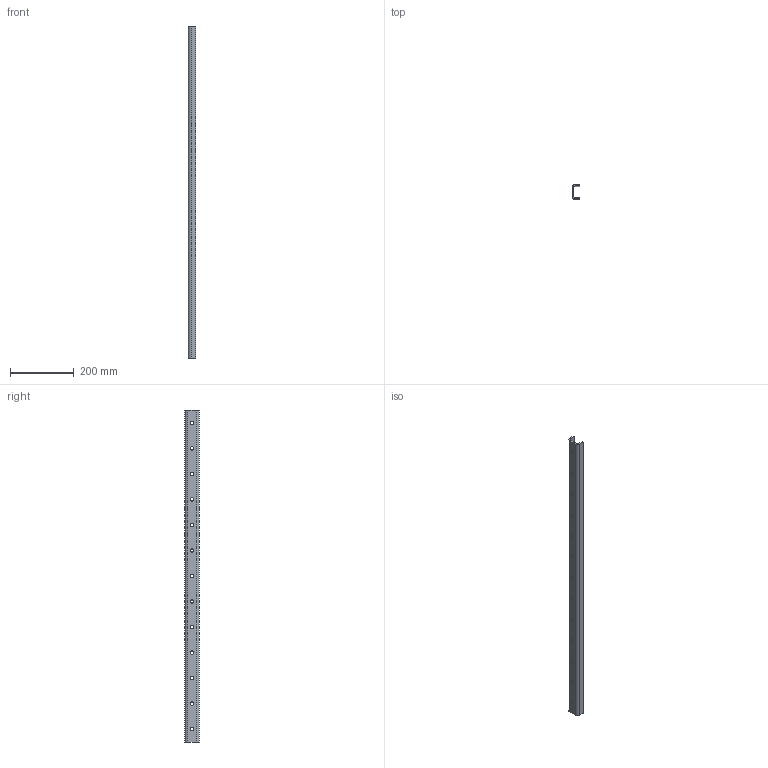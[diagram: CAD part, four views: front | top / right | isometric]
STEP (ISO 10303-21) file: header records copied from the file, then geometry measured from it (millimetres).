
FILE_DESCRIPTION (( 'STEP AP203' ), '1' );
FILE_NAME ('L1971.45U-1040.step', '2026-01-14T16:06:30', ( '' ), ( '' ), 'SwSTEP 2.0', 'SolidWorks 2019', '' );
FILE_SCHEMA (( 'CONFIG_CONTROL_DESIGN' ));
Length unit declared in the file: millimetre
Products named in the file (1): L1971.45U-1040
Bounding box: 24.5 x 44.8 x 1040 mm (x, y, z)
Volume: 362963.6 mm3; surface area: 173272.4 mm2
Topology: 1 solids, 1 shells, 79 faces, 231 edges, 154 vertices
Faces by surface type: cylinder 43, plane 36
Entity records: 2780 total; most frequent: DIRECTION 477, CARTESIAN_POINT 465, ORIENTED_EDGE 462, EDGE_CURVE 231, AXIS2_PLACEMENT_3D 166, VERTEX_POINT 154, VECTOR 145, LINE 145
